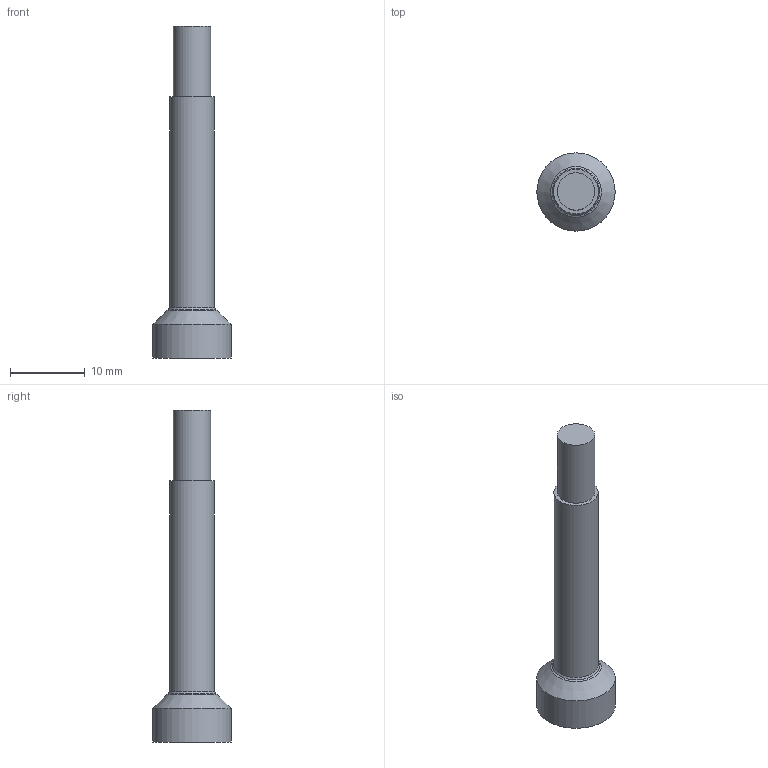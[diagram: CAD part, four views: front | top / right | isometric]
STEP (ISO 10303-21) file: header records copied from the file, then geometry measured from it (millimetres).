
FILE_DESCRIPTION(('Open CASCADE Model'),'2;1');
FILE_NAME('Open CASCADE Shape Model','2026-11-14T14:42:01',('Author'),( 'Open CASCADE'),'Open CASCADE STEP processor 8.0','Open CASCADE 8.0' ,'Unknown');
FILE_SCHEMA(('AUTOMOTIVE_DESIGN { 1 0 10303 214 1 1 1 1 }'));
Length unit declared in the file: millimetre
Products named in the file (1): Open CASCADE STEP translator 8.0 2
Bounding box: 10.5 x 10.5 x 44.5 mm (x, y, z)
Volume: 1478.3 mm3; surface area: 1053.7 mm2
Topology: 1 solids, 1 shells, 16 faces, 32 edges, 20 vertices
Faces by surface type: plane 10, cylinder 3, cone 3
Full cylindrical faces by diameter (mm): 5 x1, 6 x1, 10.5 x1
Entity records: 826 total; most frequent: CARTESIAN_POINT 145, DIRECTION 126, LINE 72, VECTOR 72, ORIENTED_EDGE 64, PCURVE 64, DEFINITIONAL_REPRESENTATION 64, EDGE_CURVE 32
